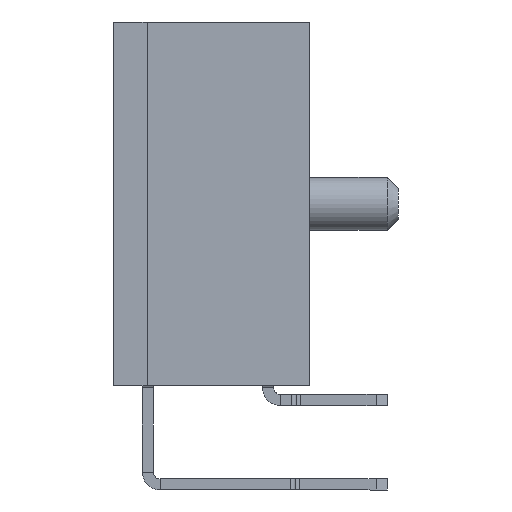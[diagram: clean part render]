
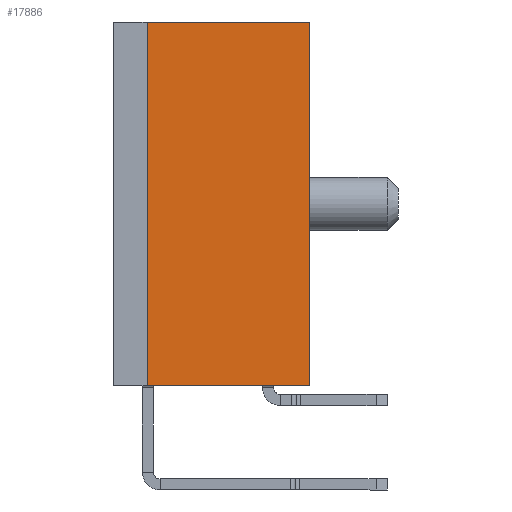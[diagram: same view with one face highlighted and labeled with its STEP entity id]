
A CAD part, left-side view. The second image highlights one B-rep face of the part: STEP entity #17886.
In plain terms, the highlighted planar face has unit normal (-1, 0, 0).
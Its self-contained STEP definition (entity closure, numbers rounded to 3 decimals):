
#3399 = CARTESIAN_POINT ( 'NONE',  ( -37.686, -4.69, -8.2 ) ) ;
#4355 = CARTESIAN_POINT ( 'NONE',  ( -37.686, 2.64, -8.2 ) ) ;
#8129 = CARTESIAN_POINT ( 'NONE',  ( -37.686, 2.64, -8.8 ) ) ;
#8132 = LINE ( 'NONE', #8129, #78714 ) ;
#8137 = DIRECTION ( 'NONE',  ( 0., 0., 1. ) ) ;
#9941 = CARTESIAN_POINT ( 'NONE',  ( -37.686, -4.69, 8.2 ) ) ;
#9957 = LINE ( 'NONE', #9941, #36281 ) ;
#9965 = DIRECTION ( 'NONE',  ( 0., 0., -1. ) ) ;
#10545 = LINE ( 'NONE', #10546, #36335 ) ;
#10546 = CARTESIAN_POINT ( 'NONE',  ( -37.686, 4.14, -8.2 ) ) ;
#10553 = DIRECTION ( 'NONE',  ( 0., -1., 0. ) ) ;
#17886 = ADVANCED_FACE ( 'NONE', ( #70027 ), #70021, .F. ) ;
#18258 = EDGE_CURVE ( 'NONE', #23853, #23394, #72010, .T. ) ;
#21173 = AXIS2_PLACEMENT_3D ( 'NONE', #70037, #70038, #70039 ) ;
#23394 = VERTEX_POINT ( 'NONE', #74439 ) ;
#23853 = VERTEX_POINT ( 'NONE', #74761 ) ;
#25771 = EDGE_LOOP ( 'NONE', ( #39997, #40621, #40937, #40048 ) ) ;
#32476 = VECTOR ( 'NONE', #72012, 1000. ) ;
#36281 = VECTOR ( 'NONE', #9965, 1000. ) ;
#36335 = VECTOR ( 'NONE', #10553, 1000. ) ;
#39997 = ORIENTED_EDGE ( 'NONE', *, *, #18258, .F. ) ;
#40048 = ORIENTED_EDGE ( 'NONE', *, *, #66706, .F. ) ;
#40621 = ORIENTED_EDGE ( 'NONE', *, *, #65566, .F. ) ;
#40937 = ORIENTED_EDGE ( 'NONE', *, *, #67161, .T. ) ;
#46572 = VERTEX_POINT ( 'NONE', #3399 ) ;
#47513 = VERTEX_POINT ( 'NONE', #4355 ) ;
#65566 = EDGE_CURVE ( 'NONE', #47513, #23853, #8132, .T. ) ;
#66706 = EDGE_CURVE ( 'NONE', #23394, #46572, #9957, .T. ) ;
#67161 = EDGE_CURVE ( 'NONE', #47513, #46572, #10545, .T. ) ;
#70021 = PLANE ( 'NONE',  #21173 ) ;
#70027 = FACE_OUTER_BOUND ( 'NONE', #25771, .T. ) ;
#70037 = CARTESIAN_POINT ( 'NONE',  ( -37.686, 4.14, 8.2 ) ) ;
#70038 = DIRECTION ( 'NONE',  ( 1., 0., 0. ) ) ;
#70039 = DIRECTION ( 'NONE',  ( 0., 1., 0. ) ) ;
#72010 = LINE ( 'NONE', #72011, #32476 ) ;
#72011 = CARTESIAN_POINT ( 'NONE',  ( -37.686, 4.14, 8.2 ) ) ;
#72012 = DIRECTION ( 'NONE',  ( 0., -1., 0. ) ) ;
#74439 = CARTESIAN_POINT ( 'NONE',  ( -37.686, -4.69, 8.2 ) ) ;
#74761 = CARTESIAN_POINT ( 'NONE',  ( -37.686, 2.64, 8.2 ) ) ;
#78714 = VECTOR ( 'NONE', #8137, 1000. ) ;
